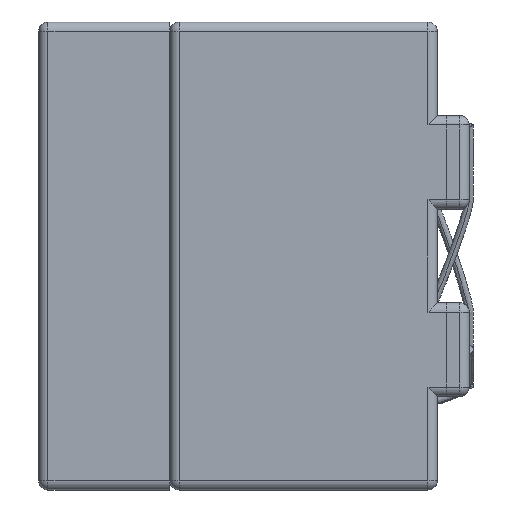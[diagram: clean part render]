
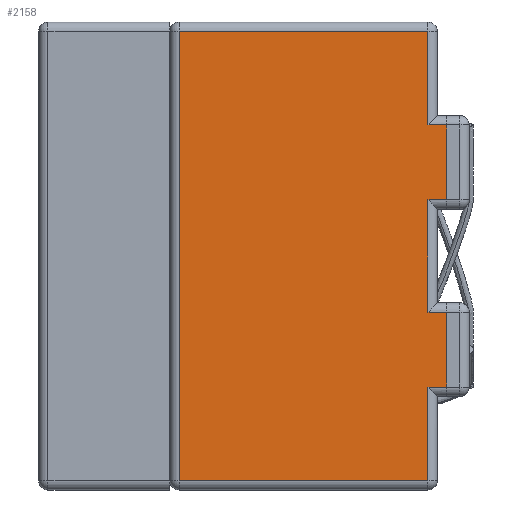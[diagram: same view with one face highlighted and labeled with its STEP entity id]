
A CAD part, left-side view. The second image highlights one B-rep face of the part: STEP entity #2158.
In plain terms, the highlighted planar face has unit normal (-1, 0, 0).
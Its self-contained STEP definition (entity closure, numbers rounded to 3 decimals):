
#38 = ORIENTED_EDGE ( 'NONE', *, *, #33080, .T. ) ;
#45 = EDGE_CURVE ( 'NONE', #8665, #22865, #34925, .T. ) ;
#1636 = EDGE_CURVE ( 'NONE', #19133, #22865, #8517, .T. ) ;
#2158 = ADVANCED_FACE ( 'NONE', ( #21191 ), #12482, .T. ) ;
#2467 = ORIENTED_EDGE ( 'NONE', *, *, #24768, .T. ) ;
#2865 = VECTOR ( 'NONE', #14008, 1000. ) ;
#3013 = CARTESIAN_POINT ( 'NONE',  ( -1.6, -0.7, -1.2 ) ) ;
#3417 = DIRECTION ( 'NONE',  ( 0., 1., 0. ) ) ;
#3453 = EDGE_CURVE ( 'NONE', #4903, #19133, #13053, .T. ) ;
#3893 = LINE ( 'NONE', #15247, #18888 ) ;
#4843 = ORIENTED_EDGE ( 'NONE', *, *, #45, .F. ) ;
#4903 = VERTEX_POINT ( 'NONE', #31913 ) ;
#5442 = CARTESIAN_POINT ( 'NONE',  ( -1.6, -0.75, 0. ) ) ;
#5473 = CARTESIAN_POINT ( 'NONE',  ( -1.6, -0.65, -1.2 ) ) ;
#5611 = CARTESIAN_POINT ( 'NONE',  ( -1.6, -0.65, 0.7 ) ) ;
#5866 = DIRECTION ( 'NONE',  ( 0., -1., 0. ) ) ;
#6230 = VECTOR ( 'NONE', #5866, 1000. ) ;
#6266 = CARTESIAN_POINT ( 'NONE',  ( -1.6, -0.75, -0.3 ) ) ;
#6296 = VECTOR ( 'NONE', #26366, 1000. ) ;
#6568 = EDGE_CURVE ( 'NONE', #21085, #14184, #17475, .T. ) ;
#7762 = CARTESIAN_POINT ( 'NONE',  ( -1.6, -0.75, 0. ) ) ;
#8346 = EDGE_CURVE ( 'NONE', #36657, #22191, #22528, .T. ) ;
#8517 = LINE ( 'NONE', #8709, #6230 ) ;
#8593 = CARTESIAN_POINT ( 'NONE',  ( -1.6, -0.7, -0.3 ) ) ;
#8665 = VERTEX_POINT ( 'NONE', #15118 ) ;
#8709 = CARTESIAN_POINT ( 'NONE',  ( -1.6, -0.87, 0.3 ) ) ;
#9282 = CARTESIAN_POINT ( 'NONE',  ( -1.6, -0.7, 0.7 ) ) ;
#9726 = EDGE_CURVE ( 'NONE', #26768, #12012, #26999, .T. ) ;
#10325 = ORIENTED_EDGE ( 'NONE', *, *, #23422, .T. ) ;
#10653 = CARTESIAN_POINT ( 'NONE',  ( -1.6, -0.65, -0.75 ) ) ;
#10844 = VECTOR ( 'NONE', #32758, 1000. ) ;
#12012 = VERTEX_POINT ( 'NONE', #35911 ) ;
#12482 = PLANE ( 'NONE',  #14284 ) ;
#12898 = LINE ( 'NONE', #21968, #28549 ) ;
#12981 = CARTESIAN_POINT ( 'NONE',  ( -1.6, 0.68, -1.25 ) ) ;
#13053 = LINE ( 'NONE', #33306, #10844 ) ;
#14008 = DIRECTION ( 'NONE',  ( 0., 0., -1. ) ) ;
#14184 = VERTEX_POINT ( 'NONE', #28208 ) ;
#14284 = AXIS2_PLACEMENT_3D ( 'NONE', #15684, #15873, #24029 ) ;
#15118 = CARTESIAN_POINT ( 'NONE',  ( -1.6, -0.75, 0.7 ) ) ;
#15247 = CARTESIAN_POINT ( 'NONE',  ( -1.6, -0.65, 1.25 ) ) ;
#15684 = CARTESIAN_POINT ( 'NONE',  ( -1.6, 0., 0. ) ) ;
#15873 = DIRECTION ( 'NONE',  ( -1., 0., 0. ) ) ;
#16246 = ORIENTED_EDGE ( 'NONE', *, *, #6568, .T. ) ;
#17058 = VECTOR ( 'NONE', #37194, 1000. ) ;
#17159 = CARTESIAN_POINT ( 'NONE',  ( -1.6, -0.75, 0.3 ) ) ;
#17475 = LINE ( 'NONE', #35079, #6296 ) ;
#18486 = ORIENTED_EDGE ( 'NONE', *, *, #9726, .T. ) ;
#18530 = EDGE_CURVE ( 'NONE', #14184, #20803, #35894, .T. ) ;
#18888 = VECTOR ( 'NONE', #21492, 1000. ) ;
#19133 = VERTEX_POINT ( 'NONE', #30972 ) ;
#19497 = EDGE_CURVE ( 'NONE', #12012, #22191, #12898, .T. ) ;
#20803 = VERTEX_POINT ( 'NONE', #20956 ) ;
#20949 = DIRECTION ( 'NONE',  ( 0., 0., 1. ) ) ;
#20956 = CARTESIAN_POINT ( 'NONE',  ( -1.6, 0.68, -1.2 ) ) ;
#21085 = VERTEX_POINT ( 'NONE', #21140 ) ;
#21140 = CARTESIAN_POINT ( 'NONE',  ( -1.6, -0.65, 1.2 ) ) ;
#21191 = FACE_OUTER_BOUND ( 'NONE', #27693, .T. ) ;
#21492 = DIRECTION ( 'NONE',  ( 0., 0., 1. ) ) ;
#21577 = CARTESIAN_POINT ( 'NONE',  ( -1.6, -0.75, -0.7 ) ) ;
#21968 = CARTESIAN_POINT ( 'NONE',  ( -1.6, -0.87, -0.7 ) ) ;
#22191 = VERTEX_POINT ( 'NONE', #21577 ) ;
#22518 = VECTOR ( 'NONE', #30410, 1000. ) ;
#22528 = LINE ( 'NONE', #7762, #2865 ) ;
#22864 = VERTEX_POINT ( 'NONE', #5611 ) ;
#22865 = VERTEX_POINT ( 'NONE', #17159 ) ;
#23082 = DIRECTION ( 'NONE',  ( 0., -1., 0. ) ) ;
#23172 = LINE ( 'NONE', #8593, #17058 ) ;
#23422 = EDGE_CURVE ( 'NONE', #22864, #21085, #3893, .T. ) ;
#23748 = DIRECTION ( 'NONE',  ( 0., 0., -1. ) ) ;
#23801 = ORIENTED_EDGE ( 'NONE', *, *, #19497, .T. ) ;
#24029 = DIRECTION ( 'NONE',  ( 0., 0., 1. ) ) ;
#24768 = EDGE_CURVE ( 'NONE', #36657, #4903, #23172, .T. ) ;
#24810 = DIRECTION ( 'NONE',  ( 0., -1., 0. ) ) ;
#24822 = VECTOR ( 'NONE', #20949, 1000. ) ;
#24931 = ORIENTED_EDGE ( 'NONE', *, *, #3453, .T. ) ;
#26366 = DIRECTION ( 'NONE',  ( 0., 1., 0. ) ) ;
#26768 = VERTEX_POINT ( 'NONE', #5473 ) ;
#26882 = LINE ( 'NONE', #9282, #33232 ) ;
#26908 = EDGE_CURVE ( 'NONE', #20803, #26768, #28582, .T. ) ;
#26999 = LINE ( 'NONE', #10653, #24822 ) ;
#27088 = VECTOR ( 'NONE', #23748, 1000. ) ;
#27693 = EDGE_LOOP ( 'NONE', ( #4843, #38, #10325, #16246, #34408, #31051, #18486, #23801, #36372, #2467, #24931, #36454 ) ) ;
#28208 = CARTESIAN_POINT ( 'NONE',  ( -1.6, 0.68, 1.2 ) ) ;
#28549 = VECTOR ( 'NONE', #24810, 1000. ) ;
#28582 = LINE ( 'NONE', #3013, #36362 ) ;
#30410 = DIRECTION ( 'NONE',  ( 0., 0., -1. ) ) ;
#30972 = CARTESIAN_POINT ( 'NONE',  ( -1.6, -0.65, 0.3 ) ) ;
#31051 = ORIENTED_EDGE ( 'NONE', *, *, #26908, .T. ) ;
#31913 = CARTESIAN_POINT ( 'NONE',  ( -1.6, -0.65, -0.3 ) ) ;
#32758 = DIRECTION ( 'NONE',  ( 0., 0., 1. ) ) ;
#33080 = EDGE_CURVE ( 'NONE', #8665, #22864, #26882, .T. ) ;
#33232 = VECTOR ( 'NONE', #3417, 1000. ) ;
#33306 = CARTESIAN_POINT ( 'NONE',  ( -1.6, -0.65, 0.25 ) ) ;
#34408 = ORIENTED_EDGE ( 'NONE', *, *, #18530, .T. ) ;
#34925 = LINE ( 'NONE', #5442, #27088 ) ;
#35079 = CARTESIAN_POINT ( 'NONE',  ( -1.6, 0.73, 1.2 ) ) ;
#35894 = LINE ( 'NONE', #12981, #22518 ) ;
#35911 = CARTESIAN_POINT ( 'NONE',  ( -1.6, -0.65, -0.7 ) ) ;
#36362 = VECTOR ( 'NONE', #23082, 1000. ) ;
#36372 = ORIENTED_EDGE ( 'NONE', *, *, #8346, .F. ) ;
#36454 = ORIENTED_EDGE ( 'NONE', *, *, #1636, .T. ) ;
#36657 = VERTEX_POINT ( 'NONE', #6266 ) ;
#37194 = DIRECTION ( 'NONE',  ( 0., 1., 0. ) ) ;
